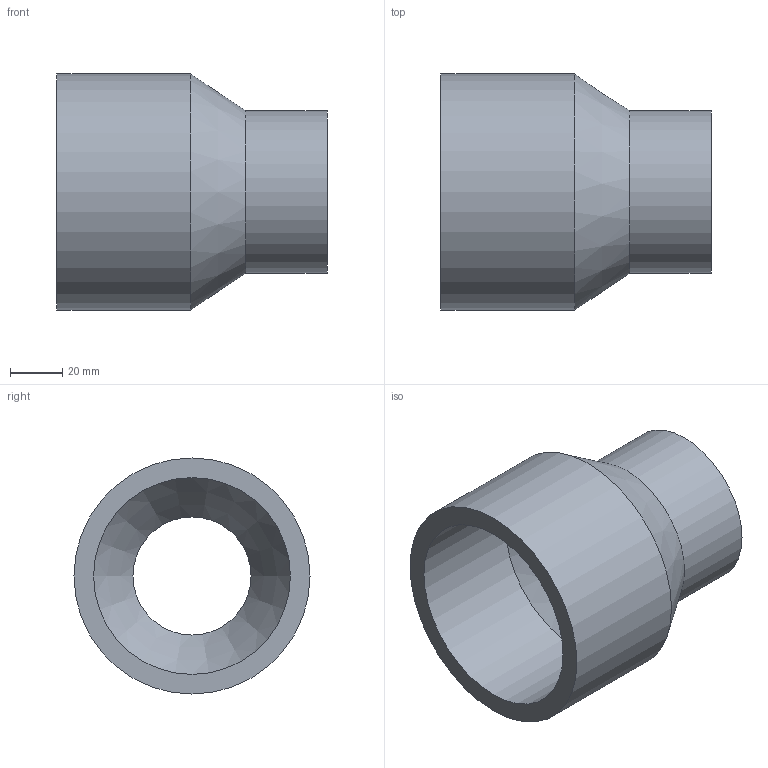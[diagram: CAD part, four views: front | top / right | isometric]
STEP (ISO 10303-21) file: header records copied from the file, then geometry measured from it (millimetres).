
FILE_DESCRIPTION(/* description */ ('PLASSON REDUCING SOCKET M.F.90(75)50 CEMENTED'),/* implementation_level */ '2;1');
FILE_NAME(/* name */ 'C:\Dropbox\KIMPROJECTS-Inventor\99-16-3568-Processing\PVC Catalog 2017\050200\050200090050.ipt.stp',/* time_stamp */ '2017-12-07T15:52:46+02:00',/* author */ ('KIM'),/* organization */ (''),/* preprocessor_version */ 'ST-DEVELOPER v15.6',/* originating_system */ 'Autodesk Inventor 2015',/* authorisation */ '');
FILE_SCHEMA (('AUTOMOTIVE_DESIGN { 1 0 10303 214 3 1 1 }'));
Length unit declared in the file: millimetre
Products named in the file (1): 050200090050
Bounding box: 103 x 90 x 90 mm (x, y, z)
Volume: 185438 mm3; surface area: 50968.1 mm2
Topology: 1 solids, 1 shells, 10 faces, 17 edges, 10 vertices
Faces by surface type: cylinder 5, plane 3, cone 2
Full cylindrical faces by diameter (mm): 45 x1, 50 x1, 62 x1, 75 x1, 90 x1
Entity records: 232 total; most frequent: DIRECTION 42, CARTESIAN_POINT 31, AXIS2_PLACEMENT_3D 21, EDGE_LOOP 20, ORIENTED_EDGE 20, FACE_BOUND 10, FACE_OUTER_BOUND 10, CIRCLE 10
